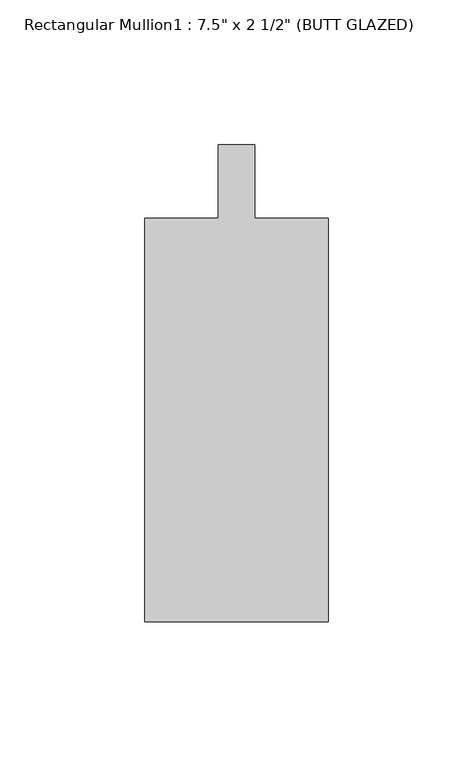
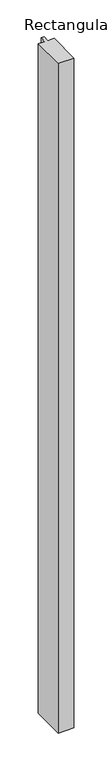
"""IFC4 building model written with IfcOpenShell, lengths in millimetres: member geometry."""

from ifc_helpers import new_model, si_unit, frame, origin, place, context, project, spatial, polyline, outline, extrude, source, transform, mapped, element, save


def member_91cd53df(model_context):
    return source(origin(), model_context, "Body", "SweptSolid", [
        extrude(outline(polyline([(31.75, -165.1), (-31.75, -165.1), (-31.75, -25.4), (-6.35, -25.4), (-6.35, 0.0), (6.35, 0.0), (6.35, -25.4), (31.75, -25.4), (31.75, -165.1)])), frame((0.0, 0.0, -2895.6), z_axis=(0.0, 0.0, 1.0), x_axis=(1.0, 0.0, 0.0)), (0.0, 0.0, 1.0), 2895.6),
    ])


if __name__ == "__main__":
    model = new_model("IFC4")
    model_context = context("Model", 3, world=origin())
    ifc_project = project(units=[si_unit("LENGTHUNIT", "METRE", prefix="MILLI")], contexts=[model_context])
    site = spatial("IfcSite", under=ifc_project)
    building = spatial("IfcBuilding", under=site)
    placement = place(None, origin())
    member_shape = member_91cd53df(model_context)
    element("IfcMember", 1, ObjectType="Rectangular Mullion1 : 7.5\" x 2 1/2\" (BUTT GLAZED)", at=placement, inside=building, context=model_context, shape_type="MappedRepresentation", body=[
        mapped(member_shape, transform((0.0, 0.0, 0.0), x_axis=(1.0, 0.0, 0.0), y_axis=(0.0, 1.0, 0.0), z_axis=(0.0, 0.0, 1.0))),
    ])
    save(model, "model.ifc")
